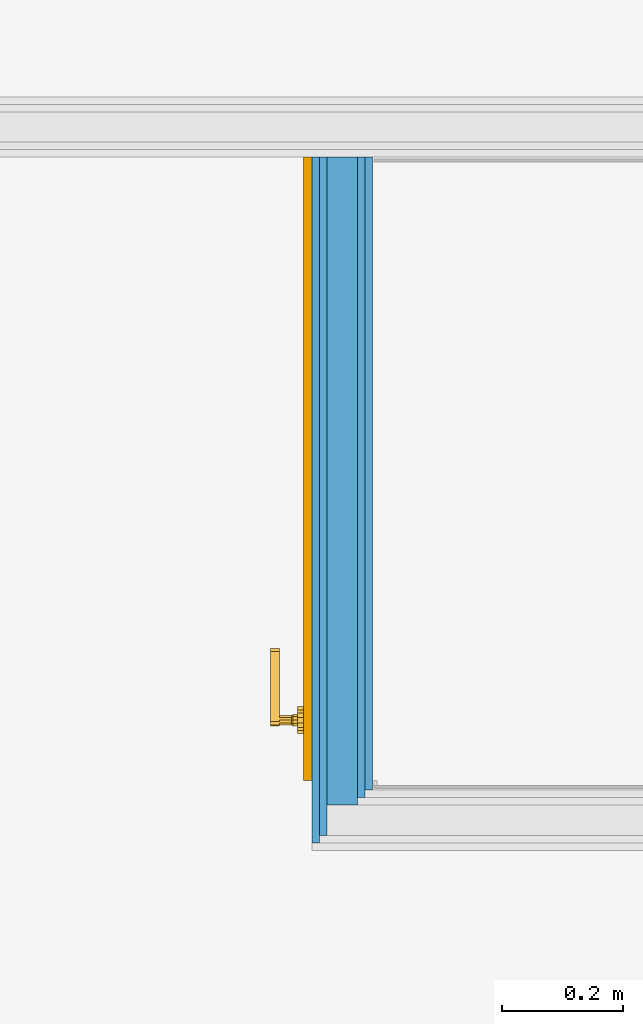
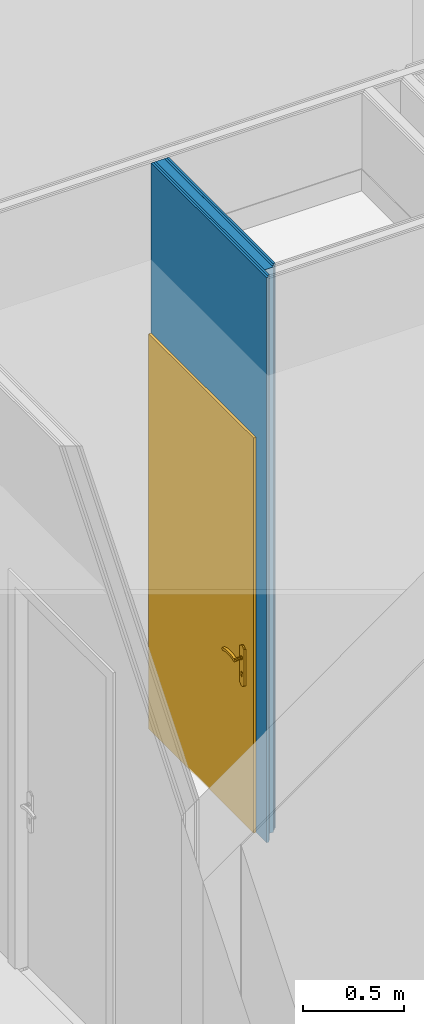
# One storey, part 20 of 788: 5 building element parts, 1 door, 1 opening, 1 element without a shape of its own.
"""IFC2X3 building model written with IfcOpenShell, lengths in millimetres."""

from ifc_helpers import new_model, entity, si_unit, converted_unit, derived_unit, money_unit, direction, frame, origin_with_axes, place, context, subcontext, project, spatial, faceted_brep, source, transform, mapped, material, type_object, type_shapes, element, fill, aggregate, save


model = new_model("IFC2X3")

# Units and contexts
model_context = context("Model", 3, precision=0.01, world=origin_with_axes(), true_north=direction((0.0, 1.0)))
plan_context = context("Plan", 3, precision=0.01, world=origin_with_axes(), true_north=direction((0.0, 1.0)))
body_context = subcontext(model_context, "Body", "Model", "MODEL_VIEW")
ifc_project = project(units=[si_unit("LENGTHUNIT", "METRE", prefix="MILLI"), si_unit("AREAUNIT", "SQUARE_METRE"), si_unit("VOLUMEUNIT", "CUBIC_METRE"), converted_unit("PLANEANGLEUNIT", "DEGREE", entity("IfcPlaneAngleMeasure", 0.0174532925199), si_unit("PLANEANGLEUNIT", "RADIAN"), dimensions=[0, 0, 0, 0, 0, 0, 0]), money_unit("EUR"), converted_unit("TIMEUNIT", "Year", entity("IfcTimeMeasure", 31556926.0), si_unit("TIMEUNIT", "SECOND"), dimensions=[0, 0, 1, 0, 0, 0, 0]), si_unit("MASSUNIT", "GRAM", prefix="KILO"), si_unit("THERMODYNAMICTEMPERATUREUNIT", "DEGREE_CELSIUS"), si_unit("LUMINOUSINTENSITYUNIT", "LUMEN"), si_unit("ENERGYUNIT", "JOULE", prefix="MEGA"), derived_unit("THERMALCONDUCTANCEUNIT", [(si_unit("POWERUNIT", "WATT"), 1), (si_unit("LENGTHUNIT", "METRE"), -1), (si_unit("THERMODYNAMICTEMPERATUREUNIT", "KELVIN"), -1)]), derived_unit("SPECIFICHEATCAPACITYUNIT", [(si_unit("ENERGYUNIT", "JOULE"), 1), (si_unit("MASSUNIT", "GRAM", prefix="KILO"), -1), (si_unit("THERMODYNAMICTEMPERATUREUNIT", "KELVIN"), -1)]), derived_unit("MASSDENSITYUNIT", [(si_unit("MASSUNIT", "GRAM", prefix="KILO"), 1), (si_unit("VOLUMEUNIT", "CUBIC_METRE"), -1)])], contexts=[model_context, plan_context])

# Site, building, storey
site_placement = place(None, origin_with_axes())
site = spatial("IfcSite", under=ifc_project, at=site_placement, Name="Site", CompositionType="ELEMENT")
building_placement = place(site_placement, origin_with_axes())
building = spatial("IfcBuilding", under=site, at=building_placement, Name="Naam gebouw", CompositionType="ELEMENT")
storey_placement = place(building_placement, origin_with_axes())
storey = spatial("IfcBuildingStorey", under=building, at=storey_placement, Name="Begane grond", CompositionType="ELEMENT", Elevation=0.0)

# Door
door_style = type_object("IfcDoorStyle", Name="D1 25", ConstructionType="NOTDEFINED", OperationType="SINGLE_SWING_RIGHT", ParameterTakesPrecedence=False, Sizeable=False)
shared_shape = source(origin_with_axes(), body_context, "Body", "Brep", [
    faceted_brep([(-450.0, -40.0, 0.0), (-450.0, -40.0, 2310.0), (-450.0, -114.0, 2310.0), (-450.0, -114.0, 0.0), (-467.0, -40.0, 2310.0), (-467.0, -40.0, 0.0), (-467.0, 0.0, 2310.0), (-517.0, 0.0, 2310.0), (-517.0, -114.0, 2310.0), (-517.0, -114.0, 0.0), (-517.0, 0.0, 0.0), (-467.0, 0.0, 0.0)], [[[0, 1, 2, 3]], [[4, 1, 0, 5]], [[4, 6, 7, 8, 2, 1]], [[3, 2, 8, 9]], [[5, 0, 3, 9, 10, 11]], [[6, 4, 5, 11]], [[6, 11, 10, 7]], [[10, 9, 8, 7]]]),
    faceted_brep([(467.0, -40.0, 2310.0), (450.0, -40.0, 2310.0), (450.0, -114.0, 2310.0), (517.0, -114.0, 2310.0), (517.0, 0.0, 2310.0), (467.0, 0.0, 2310.0), (467.0, -40.0, 0.0), (450.0, -40.0, 0.0), (450.0, -114.0, 0.0), (517.0, -114.0, 0.0), (517.0, 0.0, 0.0), (467.0, 0.0, 0.0)], [[[0, 1, 2, 3, 4, 5]], [[1, 0, 6, 7]], [[1, 7, 8, 2]], [[3, 2, 8, 9]], [[4, 3, 9, 10]], [[11, 5, 4, 10]], [[0, 5, 11, 6]], [[6, 11, 10, 9, 8, 7]]]),
    faceted_brep([(-467.0, 0.0, 2327.0), (-467.0, 0.0, 2310.0), (-517.0, 0.0, 2310.0), (-517.0, 0.0, 2377.0), (517.0, 0.0, 2377.0), (517.0, 0.0, 2310.0), (467.0, 0.0, 2310.0), (467.0, 0.0, 2327.0), (-467.0, -40.0, 2327.0), (-467.0, -40.0, 2310.0), (-450.0, -40.0, 2310.0), (-450.0, -114.0, 2310.0), (-517.0, -114.0, 2310.0), (-517.0, -114.0, 2377.0), (517.0, -114.0, 2377.0), (517.0, -114.0, 2310.0), (467.0, -40.0, 2310.0), (450.0, -114.0, 2310.0), (450.0, -40.0, 2310.0), (467.0, -40.0, 2327.0)], [[[0, 1, 2, 3, 4, 5, 6, 7]], [[1, 0, 8, 9]], [[9, 10, 11, 12, 2, 1]], [[2, 12, 13, 3]], [[3, 13, 14, 4]], [[4, 14, 15, 5]], [[16, 6, 5, 15, 17, 18]], [[7, 6, 16, 19]], [[0, 7, 19, 8]], [[16, 18, 10, 9, 8, 19]], [[10, 18, 17, 11]], [[17, 15, 14, 13, 12, 11]]]),
    faceted_brep([(-421.702282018, -80.0, 1006.47213595), (-417.0, -80.0, 1008.0), (-417.0, -60.0, 1008.0), (-421.702282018, -60.0, 1006.47213595), (-424.60845213, -80.0, 1002.47213595), (-424.60845213, -80.0, 997.527864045), (-421.702282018, -80.0, 993.527864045), (-417.0, -80.0, 992.0), (-412.297717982, -80.0, 993.527864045), (-409.39154787, -80.0, 997.527864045), (-409.39154787, -80.0, 1002.47213595), (-412.297717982, -80.0, 1006.47213595), (-412.297717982, -60.0, 1006.47213595), (-417.0, -58.0, 1010.0), (-422.877852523, -58.0, 1008.09016994), (-424.60845213, -60.0, 1002.47213595), (-424.60845213, -60.0, 997.527864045), (-421.702282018, -60.0, 993.527864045), (-417.0, -60.0, 992.0), (-412.297717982, -60.0, 993.527864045), (-409.39154787, -60.0, 997.527864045), (-409.39154787, -60.0, 1002.47213595), (-411.122147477, -58.0, 1008.09016994), (-417.0, -50.0, 1010.0), (-422.877852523, -50.0, 1008.09016994), (-426.510565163, -58.0, 1003.09016994), (-426.510565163, -58.0, 996.909830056), (-422.877852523, -58.0, 991.909830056), (-417.0, -58.0, 990.0), (-411.122147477, -58.0, 991.909830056), (-407.489434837, -58.0, 996.909830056), (-407.489434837, -58.0, 1003.09016994), (-411.122147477, -50.0, 1008.09016994), (-407.489434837, -50.0, 1003.09016994), (-407.489434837, -50.0, 996.909830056), (-411.122147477, -50.0, 991.909830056), (-417.0, -50.0, 990.0), (-422.877852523, -50.0, 991.909830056), (-426.510565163, -50.0, 996.909830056), (-426.510565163, -50.0, 1003.09016994)], [[[0, 1, 2, 3]], [[1, 0, 4, 5, 6, 7, 8, 9, 10, 11]], [[1, 11, 12, 2]], [[3, 2, 13, 14]], [[4, 0, 3, 15]], [[5, 4, 15, 16]], [[6, 5, 16, 17]], [[7, 6, 17, 18]], [[8, 7, 18, 19]], [[9, 8, 19, 20]], [[10, 9, 20, 21]], [[11, 10, 21, 12]], [[2, 12, 22, 13]], [[14, 13, 23, 24]], [[15, 3, 14, 25]], [[16, 15, 25, 26]], [[17, 16, 26, 27]], [[18, 17, 27, 28]], [[19, 18, 28, 29]], [[20, 19, 29, 30]], [[21, 20, 30, 31]], [[12, 21, 31, 22]], [[13, 22, 32, 23]], [[23, 32, 33, 34, 35, 36, 37, 38, 39, 24]], [[25, 14, 24, 39]], [[26, 25, 39, 38]], [[27, 26, 38, 37]], [[28, 27, 37, 36]], [[29, 28, 36, 35]], [[30, 29, 35, 34]], [[31, 30, 34, 33]], [[22, 31, 33, 32]]]),
    faceted_brep([(-404.811616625, -50.0, 1067.59695641), (-412.556444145, -50.0, 1071.95567195), (-421.443555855, -50.0, 1071.95567195), (-429.188383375, -50.0, 1067.59695641), (-433.8, -50.0, 1060.0), (-439.5, -50.0, 1060.0), (-439.5, -50.0, 840.0), (-433.8, -50.0, 840.0), (-429.188383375, -50.0, 832.403043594), (-421.443555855, -50.0, 828.044328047), (-412.556444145, -50.0, 828.044328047), (-404.811616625, -50.0, 832.403043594), (-400.2, -50.0, 840.0), (-394.5, -50.0, 840.0), (-394.5, -50.0, 1060.0), (-400.2, -50.0, 1060.0), (-417.0, -50.0, 917.425445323), (-411.624817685, -50.0, 915.143815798), (-409.532169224, -50.0, 909.692280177), (-412.0, -50.0, 904.4), (-412.0, -50.0, 887.5), (-413.464466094, -50.0, 883.964466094), (-417.0, -50.0, 882.5), (-420.535533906, -50.0, 883.964466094), (-422.0, -50.0, 887.5), (-422.0, -50.0, 904.4), (-424.467830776, -50.0, 909.692280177), (-422.375182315, -50.0, 915.143815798), (-404.811616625, -40.0, 1067.59695641), (-412.556444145, -40.0, 1071.95567195), (-421.443555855, -40.0, 1071.95567195), (-429.188383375, -40.0, 1067.59695641), (-433.8, -40.0, 1060.0), (-439.5, -40.0, 1060.0), (-439.5, -40.0, 840.0), (-433.8, -40.0, 840.0), (-429.188383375, -40.0, 832.403043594), (-421.443555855, -40.0, 828.044328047), (-412.556444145, -40.0, 828.044328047), (-404.811616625, -40.0, 832.403043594), (-400.2, -40.0, 840.0), (-394.5, -40.0, 840.0), (-394.5, -40.0, 1060.0), (-400.2, -40.0, 1060.0), (-417.0, -40.0, 917.425445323), (-411.624817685, -40.0, 915.143815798), (-409.532169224, -40.0, 909.692280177), (-412.0, -40.0, 904.4), (-412.0, -40.0, 887.5), (-413.464466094, -40.0, 883.964466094), (-417.0, -40.0, 882.5), (-420.535533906, -40.0, 883.964466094), (-422.0, -40.0, 887.5), (-422.0, -40.0, 904.4), (-424.467830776, -40.0, 909.692280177), (-422.375182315, -40.0, 915.143815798)], [[[0, 1, 2, 3, 4, 5, 6, 7, 8, 9, 10, 11, 12, 13, 14, 15], [16, 17, 18, 19, 20, 21, 22, 23, 24, 25, 26, 27]], [[1, 0, 28, 29]], [[2, 1, 29, 30]], [[3, 2, 30, 31]], [[4, 3, 31, 32]], [[5, 4, 32, 33]], [[6, 5, 33, 34]], [[7, 6, 34, 35]], [[8, 7, 35, 36]], [[9, 8, 36, 37]], [[10, 9, 37, 38]], [[11, 10, 38, 39]], [[12, 11, 39, 40]], [[13, 12, 40, 41]], [[14, 13, 41, 42]], [[15, 14, 42, 43]], [[0, 15, 43, 28]], [[17, 16, 44, 45]], [[18, 17, 45, 46]], [[19, 18, 46, 47]], [[19, 47, 48, 20]], [[20, 48, 49, 21]], [[21, 49, 50, 22]], [[22, 50, 51, 23]], [[23, 51, 52, 24]], [[53, 25, 24, 52]], [[26, 25, 53, 54]], [[27, 26, 54, 55]], [[16, 27, 55, 44]], [[40, 39, 38, 37, 36, 35, 34, 33, 32, 31, 30, 29, 28, 43, 42, 41], [54, 53, 52, 51, 50, 49, 48, 47, 46, 45, 44, 55]]]),
    faceted_brep([(-302.747, -80.0, 1007.158), (-302.747, -95.0, 1007.158), (-302.745508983, -95.0, 1007.19388416), (-302.745508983, -80.0, 1007.19388416), (-329.774630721, -80.0, 1014.32652034), (-329.774630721, -95.0, 1014.32652034), (-357.602743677, -95.0, 1017.06086405), (-385.508740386, -95.0, 1015.29002982), (-412.768, -95.0, 1009.06), (-419.170575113, -95.0, 1009.76125134), (-424.672633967, -95.0, 1006.41280843), (-426.991512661, -95.0, 1000.40385485), (-425.165167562, -95.0, 994.227352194), (-419.951302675, -95.0, 990.445773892), (-413.513017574, -95.0, 990.628000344), (-408.521392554, -95.0, 994.698430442), (-408.542, -95.0, 994.666), (-383.253286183, -95.0, 1000.19878945), (-357.410818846, -95.0, 1001.71460194), (-331.648684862, -95.0, 999.176244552), (-306.599, -95.0, 992.646), (-301.055815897, -95.0, 993.568490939), (-297.69427449, -95.0, 998.071591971), (-298.385844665, -95.0, 1003.64829442), (-298.385844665, -80.0, 1003.64829442), (-297.69427449, -80.0, 998.071591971), (-301.055815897, -80.0, 993.568490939), (-306.599, -80.0, 992.646), (-331.648684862, -80.0, 999.176244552), (-357.410818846, -80.0, 1001.71460194), (-383.253286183, -80.0, 1000.19878945), (-408.542, -80.0, 994.666), (-408.521392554, -80.0, 994.698430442), (-413.513017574, -80.0, 990.628000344), (-419.951302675, -80.0, 990.445773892), (-425.165167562, -80.0, 994.227352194), (-426.991512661, -80.0, 1000.40385485), (-424.672633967, -80.0, 1006.41280843), (-419.170575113, -80.0, 1009.76125134), (-412.768, -80.0, 1009.06), (-385.508740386, -80.0, 1015.29002982), (-357.602743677, -80.0, 1017.06086405)], [[[0, 1, 2, 3]], [[4, 5, 1, 0]], [[1, 5, 6, 7, 8, 9, 10, 11, 12, 13, 14, 15, 16, 17, 18, 19, 20, 21, 22, 23, 2]], [[3, 2, 23, 24]], [[0, 3, 24, 25, 26, 27, 28, 29, 30, 31, 32, 33, 34, 35, 36, 37, 38, 39, 40, 41, 4]], [[41, 6, 5, 4]], [[40, 7, 6, 41]], [[39, 8, 7, 40]], [[38, 9, 8, 39]], [[37, 10, 9, 38]], [[36, 11, 10, 37]], [[35, 12, 11, 36]], [[34, 13, 12, 35]], [[33, 14, 13, 34]], [[32, 15, 14, 33]], [[31, 16, 15, 32]], [[30, 17, 16, 31]], [[29, 18, 17, 30]], [[28, 19, 18, 29]], [[27, 20, 19, 28]], [[26, 21, 20, 27]], [[25, 22, 21, 26]], [[24, 23, 22, 25]]]),
    faceted_brep([(-421.702282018, 40.0, 1006.47213595), (-421.702282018, 20.0, 1006.47213595), (-417.0, 20.0, 1008.0), (-417.0, 40.0, 1008.0), (-424.60845213, 40.0, 1002.47213595), (-424.60845213, 20.0, 1002.47213595), (-422.877852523, 18.0, 1008.09016994), (-417.0, 18.0, 1010.0), (-412.297717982, 20.0, 1006.47213595), (-412.297717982, 40.0, 1006.47213595), (-409.39154787, 40.0, 1002.47213595), (-409.39154787, 40.0, 997.527864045), (-412.297717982, 40.0, 993.527864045), (-417.0, 40.0, 992.0), (-421.702282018, 40.0, 993.527864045), (-424.60845213, 40.0, 997.527864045), (-424.60845213, 20.0, 997.527864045), (-426.510565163, 18.0, 1003.09016994), (-422.877852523, 10.0, 1008.09016994), (-417.0, 10.0, 1010.0), (-411.122147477, 18.0, 1008.09016994), (-409.39154787, 20.0, 1002.47213595), (-409.39154787, 20.0, 997.527864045), (-412.297717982, 20.0, 993.527864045), (-417.0, 20.0, 992.0), (-421.702282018, 20.0, 993.527864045), (-426.510565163, 18.0, 996.909830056), (-426.510565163, 10.0, 1003.09016994), (-426.510565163, 10.0, 996.909830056), (-422.877852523, 10.0, 991.909830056), (-417.0, 10.0, 990.0), (-411.122147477, 10.0, 991.909830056), (-407.489434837, 10.0, 996.909830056), (-407.489434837, 10.0, 1003.09016994), (-411.122147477, 10.0, 1008.09016994), (-407.489434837, 18.0, 1003.09016994), (-407.489434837, 18.0, 996.909830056), (-411.122147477, 18.0, 991.909830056), (-417.0, 18.0, 990.0), (-422.877852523, 18.0, 991.909830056)], [[[0, 1, 2, 3]], [[4, 5, 1, 0]], [[1, 6, 7, 2]], [[3, 2, 8, 9]], [[3, 9, 10, 11, 12, 13, 14, 15, 4, 0]], [[15, 16, 5, 4]], [[5, 17, 6, 1]], [[6, 18, 19, 7]], [[2, 7, 20, 8]], [[9, 8, 21, 10]], [[10, 21, 22, 11]], [[11, 22, 23, 12]], [[12, 23, 24, 13]], [[13, 24, 25, 14]], [[14, 25, 16, 15]], [[16, 26, 17, 5]], [[17, 27, 18, 6]], [[19, 18, 27, 28, 29, 30, 31, 32, 33, 34]], [[7, 19, 34, 20]], [[8, 20, 35, 21]], [[21, 35, 36, 22]], [[22, 36, 37, 23]], [[23, 37, 38, 24]], [[24, 38, 39, 25]], [[25, 39, 26, 16]], [[26, 28, 27, 17]], [[39, 29, 28, 26]], [[38, 30, 29, 39]], [[37, 31, 30, 38]], [[36, 32, 31, 37]], [[35, 33, 32, 36]], [[20, 34, 33, 35]]]),
    faceted_brep([(-404.811616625, 0.0, 1067.59695641), (-412.556444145, 0.0, 1071.95567195), (-421.443555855, 0.0, 1071.95567195), (-429.188383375, 0.0, 1067.59695641), (-433.8, 0.0, 1060.0), (-439.5, 0.0, 1060.0), (-439.5, 0.0, 840.0), (-433.8, 0.0, 840.0), (-429.188383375, 0.0, 832.403043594), (-421.443555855, 0.0, 828.044328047), (-412.556444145, 0.0, 828.044328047), (-404.811616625, 0.0, 832.403043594), (-400.2, 0.0, 840.0), (-394.5, 0.0, 840.0), (-394.5, 0.0, 1060.0), (-400.2, 0.0, 1060.0), (-417.0, 0.0, 917.425445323), (-411.624817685, 0.0, 915.143815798), (-409.532169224, 0.0, 909.692280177), (-412.0, 0.0, 904.4), (-412.0, 0.0, 887.5), (-413.464466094, 0.0, 883.964466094), (-417.0, 0.0, 882.5), (-420.535533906, 0.0, 883.964466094), (-422.0, 0.0, 887.5), (-422.0, 0.0, 904.4), (-424.467830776, 0.0, 909.692280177), (-422.375182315, 0.0, 915.143815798), (-412.556444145, 10.0, 1071.95567195), (-404.811616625, 10.0, 1067.59695641), (-421.443555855, 10.0, 1071.95567195), (-429.188383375, 10.0, 1067.59695641), (-433.8, 10.0, 1060.0), (-439.5, 10.0, 1060.0), (-439.5, 10.0, 840.0), (-433.8, 10.0, 840.0), (-429.188383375, 10.0, 832.403043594), (-421.443555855, 10.0, 828.044328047), (-412.556444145, 10.0, 828.044328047), (-404.811616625, 10.0, 832.403043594), (-400.2, 10.0, 840.0), (-394.5, 10.0, 840.0), (-394.5, 10.0, 1060.0), (-400.2, 10.0, 1060.0), (-417.0, 10.0, 917.425445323), (-411.624817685, 10.0, 915.143815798), (-409.532169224, 10.0, 909.692280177), (-412.0, 10.0, 904.4), (-412.0, 10.0, 887.5), (-413.464466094, 10.0, 883.964466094), (-417.0, 10.0, 882.5), (-420.535533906, 10.0, 883.964466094), (-422.0, 10.0, 887.5), (-422.0, 10.0, 904.4), (-424.467830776, 10.0, 909.692280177), (-422.375182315, 10.0, 915.143815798)], [[[0, 1, 2, 3, 4, 5, 6, 7, 8, 9, 10, 11, 12, 13, 14, 15], [16, 17, 18, 19, 20, 21, 22, 23, 24, 25, 26, 27]], [[28, 1, 0, 29]], [[30, 2, 1, 28]], [[31, 3, 2, 30]], [[32, 4, 3, 31]], [[33, 5, 4, 32]], [[34, 6, 5, 33]], [[35, 7, 6, 34]], [[36, 8, 7, 35]], [[37, 9, 8, 36]], [[38, 10, 9, 37]], [[39, 11, 10, 38]], [[40, 12, 11, 39]], [[41, 13, 12, 40]], [[42, 14, 13, 41]], [[43, 15, 14, 42]], [[29, 0, 15, 43]], [[17, 16, 44, 45]], [[18, 17, 45, 46]], [[19, 18, 46, 47]], [[19, 47, 48, 20]], [[20, 48, 49, 21]], [[21, 49, 50, 22]], [[22, 50, 51, 23]], [[23, 51, 52, 24]], [[53, 25, 24, 52]], [[26, 25, 53, 54]], [[27, 26, 54, 55]], [[16, 27, 55, 44]], [[40, 39, 38, 37, 36, 35, 34, 33, 32, 31, 30, 28, 29, 43, 42, 41], [54, 53, 52, 51, 50, 49, 48, 47, 46, 45, 44, 55]]]),
    faceted_brep([(-302.747, 40.0, 1007.158), (-302.745508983, 40.0, 1007.19388416), (-302.745508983, 55.0, 1007.19388416), (-302.747, 55.0, 1007.158), (-329.774630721, 40.0, 1014.32652034), (-357.602743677, 40.0, 1017.06086405), (-385.508740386, 40.0, 1015.29002982), (-412.768, 40.0, 1009.06), (-419.170575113, 40.0, 1009.76125134), (-424.672633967, 40.0, 1006.41280843), (-426.991512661, 40.0, 1000.40385485), (-425.165167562, 40.0, 994.227352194), (-419.951302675, 40.0, 990.445773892), (-413.513017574, 40.0, 990.628000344), (-408.521392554, 40.0, 994.698430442), (-408.542, 40.0, 994.666), (-383.253286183, 40.0, 1000.19878945), (-357.410818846, 40.0, 1001.71460194), (-331.648684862, 40.0, 999.176244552), (-306.599, 40.0, 992.646), (-301.055815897, 40.0, 993.568490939), (-297.69427449, 40.0, 998.071591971), (-298.385844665, 40.0, 1003.64829442), (-298.385844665, 55.0, 1003.64829442), (-297.69427449, 55.0, 998.071591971), (-301.055815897, 55.0, 993.568490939), (-306.599, 55.0, 992.646), (-331.648684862, 55.0, 999.176244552), (-357.410818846, 55.0, 1001.71460194), (-383.253286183, 55.0, 1000.19878945), (-408.542, 55.0, 994.666), (-408.521392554, 55.0, 994.698430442), (-413.513017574, 55.0, 990.628000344), (-419.951302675, 55.0, 990.445773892), (-425.165167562, 55.0, 994.227352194), (-426.991512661, 55.0, 1000.40385485), (-424.672633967, 55.0, 1006.41280843), (-419.170575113, 55.0, 1009.76125134), (-412.768, 55.0, 1009.06), (-385.508740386, 55.0, 1015.29002982), (-357.602743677, 55.0, 1017.06086405), (-329.774630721, 55.0, 1014.32652034)], [[[0, 1, 2, 3]], [[0, 4, 5, 6, 7, 8, 9, 10, 11, 12, 13, 14, 15, 16, 17, 18, 19, 20, 21, 22, 1]], [[1, 22, 23, 2]], [[3, 2, 23, 24, 25, 26, 27, 28, 29, 30, 31, 32, 33, 34, 35, 36, 37, 38, 39, 40, 41]], [[4, 0, 3, 41]], [[5, 4, 41, 40]], [[6, 5, 40, 39]], [[7, 6, 39, 38]], [[8, 7, 38, 37]], [[9, 8, 37, 36]], [[10, 9, 36, 35]], [[11, 10, 35, 34]], [[12, 11, 34, 33]], [[13, 12, 33, 32]], [[14, 13, 32, 31]], [[15, 14, 31, 30]], [[16, 15, 30, 29]], [[17, 16, 29, 28]], [[18, 17, 28, 27]], [[19, 18, 27, 26]], [[20, 19, 26, 25]], [[21, 20, 25, 24]], [[22, 21, 24, 23]]]),
    faceted_brep([(467.0, 0.0, 0.0), (467.0, -40.0, 0.0), (-467.0, -40.0, 0.0), (-467.0, 0.0, 0.0), (467.0, 0.0, 2327.0), (467.0, -40.0, 2327.0), (-467.0, -40.0, 2327.0), (-467.0, 0.0, 2327.0)], [[[0, 1, 2, 3]], [[4, 5, 1, 0]], [[1, 5, 6, 2]], [[3, 2, 6, 7]], [[0, 3, 7, 4]], [[7, 6, 5, 4]]]),
])
type_shapes(door_style, [shared_shape])
wall_placement = place(storey_placement, frame((51743.9876376, 24779.9906098, 0.0), z_axis=(0.0, 0.0, 1.0), x_axis=(0.0, -1.0, 0.0)))
opening_placement = place(wall_placement, frame((517.000267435, 0.0, 0.0), z_axis=(0.0, 0.0, 1.0), x_axis=(1.0, 0.0, 0.0)))
door_placement = place(opening_placement, frame((517.0, 0.0, 0.0), z_axis=(0.0, 0.0, 1.0), x_axis=(-1.0, 0.0, 0.0)))
door = element("IfcDoor", 1, at=door_placement, inside=storey, type_object=door_style, Name="b1.01", ObjectType="DOOR", OverallHeight=2377.0, OverallWidth=1034.0, context=body_context, shape_type="MappedRepresentation", body=[
    mapped(shared_shape, transform((517.0, 14.0, 0.0))),
])

# Wall, opening
wall_type = type_object("IfcWallType", Name="22 Metalstud 100mm 100", PredefinedType="ELEMENTEDWALL")
wall = element("IfcWall", 2, at=wall_placement, inside=storey, type_object=wall_type, Name="Metalstud 100mm")
opening = element("IfcOpeningElement", 3, at=opening_placement, cuts=wall, Name="b1.01", context=body_context, shape_type="Brep", body=[
    faceted_brep([(-517.0, -100.0, 0.0), (-517.0, -100.0, 2377.0), (-517.0, 200.0, 2377.0), (-517.0, 200.0, 0.0), (517.0, -100.0, 0.0), (517.0, -100.0, 2377.0), (517.0, 200.0, 2377.0), (517.0, 200.0, 0.0)], [[[0, 1, 2, 3]], [[0, 4, 5, 1]], [[1, 5, 6, 2]], [[3, 2, 6, 7]], [[4, 0, 3, 7]], [[5, 4, 7, 6]]]),
])

fill(opening, door)

# Building element part
ifc_material_1 = material(Name="Gipsplaat")
building_element_part_1_placement = place(wall_placement, origin_with_axes())
building_element_part_1 = element("IfcBuildingElementPart", 4, at=building_element_part_1_placement, material=ifc_material_1, Name="Gipsplaat", context=body_context, shape_type="Brep", body=[
    faceted_brep([(1034.00026743, 100.0, 0.0), (1034.00026743, 100.0, 2377.0), (0.000267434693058, 100.0, 2377.0), (0.0, 100.0, 3400.0), (1049.99928764, 100.0, 3400.0), (1049.99928764, 100.0, 0.0), (1034.00026743, 87.5, 0.0), (1034.00026743, 87.5, 2377.0), (0.000267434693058, 87.5, 2377.0), (0.0, 87.5, 3400.0), (1049.99928764, 87.5, 3400.0), (1049.99928764, 87.5, 0.0)], [[[0, 1, 2, 3, 4, 5]], [[1, 0, 6, 7]], [[8, 2, 1, 7]], [[2, 8, 9, 3]], [[3, 9, 10, 4]], [[11, 5, 4, 10]], [[6, 0, 5, 11]], [[7, 6, 11, 10, 9, 8]]]),
])

building_element_part_2_placement = place(wall_placement, origin_with_axes())
building_element_part_2 = element("IfcBuildingElementPart", 5, at=building_element_part_2_placement, material=ifc_material_1, Name="Gipsplaat", context=body_context, shape_type="Brep", body=[
    faceted_brep([(1034.00026743, 87.5, 0.0), (1034.00026743, 87.5, 2377.0), (0.000267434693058, 87.5, 2377.0), (0.0, 87.5, 3400.0), (1062.49928764, 87.5, 3400.0), (1062.49928764, 87.5, 0.0), (1034.00026743, 75.0, 0.0), (1034.00026743, 75.0, 2377.0), (0.000267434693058, 75.0, 2377.0), (0.0, 75.0, 3400.0), (1062.49928764, 75.0, 3400.0), (1062.49928764, 75.0, 0.0)], [[[0, 1, 2, 3, 4, 5]], [[1, 0, 6, 7]], [[8, 2, 1, 7]], [[2, 8, 9, 3]], [[3, 9, 10, 4]], [[11, 5, 4, 10]], [[6, 0, 5, 11]], [[7, 6, 11, 10, 9, 8]]]),
])

ifc_material_2 = material(Name="Isolatie - Steenwol LSW")
building_element_part_3_placement = place(wall_placement, origin_with_axes())
building_element_part_3 = element("IfcBuildingElementPart", 6, at=building_element_part_3_placement, material=ifc_material_2, Name="Isolatie - Steenwol LSW", context=body_context, shape_type="Brep", body=[
    faceted_brep([(1034.00026743, 75.0, 0.0), (1034.00026743, 75.0, 2377.0), (0.000267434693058, 75.0, 2377.0), (0.0, 75.0, 3400.0), (1074.99928764, 75.0, 3400.0), (1074.99928764, 75.0, 0.0), (1034.00026743, 25.0, 0.0), (1034.00026743, 25.0, 2377.0), (0.000267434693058, 25.0, 2377.0), (0.0, 25.0, 3400.0), (1074.99928764, 25.0, 3400.0), (1074.99928764, 25.0, 0.0)], [[[0, 1, 2, 3, 4, 5]], [[1, 0, 6, 7]], [[8, 2, 1, 7]], [[2, 8, 9, 3]], [[3, 9, 10, 4]], [[11, 5, 4, 10]], [[6, 0, 5, 11]], [[7, 6, 11, 10, 9, 8]]]),
])

building_element_part_4_placement = place(wall_placement, origin_with_axes())
building_element_part_4 = element("IfcBuildingElementPart", 7, at=building_element_part_4_placement, material=ifc_material_1, Name="Gipsplaat", context=body_context, shape_type="Brep", body=[
    faceted_brep([(1034.00026743, 25.0, 0.0), (1034.00026743, 25.0, 2377.0), (0.000267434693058, 25.0, 2377.0), (0.0, 25.0, 3400.0), (1124.99928764, 25.0, 3400.0), (1124.99928764, 25.0, 0.0), (1034.00026743, 12.5, 0.0), (1034.00026743, 12.5, 2377.0), (0.000267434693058, 12.5, 2377.0), (0.0, 12.5, 3400.0), (1124.99928764, 12.5, 3400.0), (1124.99928764, 12.5, 0.0)], [[[0, 1, 2, 3, 4, 5]], [[1, 0, 6, 7]], [[8, 2, 1, 7]], [[2, 8, 9, 3]], [[3, 9, 10, 4]], [[11, 5, 4, 10]], [[6, 0, 5, 11]], [[7, 6, 11, 10, 9, 8]]]),
])

building_element_part_5_placement = place(wall_placement, origin_with_axes())
building_element_part_5 = element("IfcBuildingElementPart", 8, at=building_element_part_5_placement, material=ifc_material_1, Name="Gipsplaat", context=body_context, shape_type="Brep", body=[
    faceted_brep([(1034.00026743, 12.5, 0.0), (1034.00026743, 12.5, 2377.0), (0.000267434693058, 12.5, 2377.0), (0.0, 12.5, 3400.0), (1137.49928764, 12.5, 3400.0), (1137.49928764, 12.5, 0.0), (1034.00026743, 0.0, 0.0), (1034.00026743, 0.0, 2377.0), (0.000267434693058, 0.0, 2377.0), (0.0, 0.0, 3400.0), (1137.49928764, 0.0, 3400.0), (1137.49928764, 0.0, 0.0)], [[[0, 1, 2, 3, 4, 5]], [[1, 0, 6, 7]], [[8, 2, 1, 7]], [[2, 8, 9, 3]], [[3, 9, 10, 4]], [[11, 5, 4, 10]], [[6, 0, 5, 11]], [[7, 6, 11, 10, 9, 8]]]),
])

aggregate(wall, [building_element_part_1, building_element_part_2, building_element_part_3, building_element_part_4, building_element_part_5])

save(model, "model.ifc")
